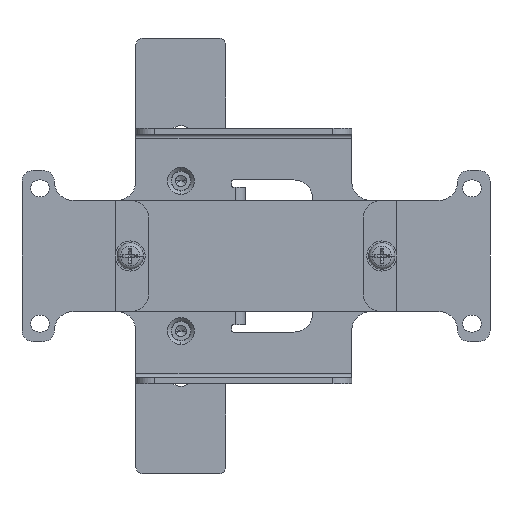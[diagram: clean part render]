
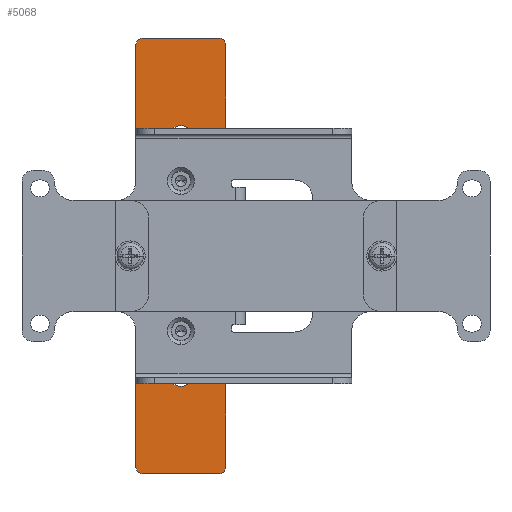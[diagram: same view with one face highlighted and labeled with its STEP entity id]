
A CAD part, front view. The second image highlights one B-rep face of the part: STEP entity #5068.
In plain terms, the highlighted planar face has unit normal (0, -1, 0).
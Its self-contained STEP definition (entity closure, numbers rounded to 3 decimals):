
#4457=DIRECTION('',(0.,0.,-1.));
#4458=VECTOR('',#4457,22.);
#4459=CARTESIAN_POINT('',(-3.7,0.,-9.));
#4460=LINE('',#4459,#4458);
#4461=CARTESIAN_POINT('',(0.,0.,-31.));
#4462=DIRECTION('',(0.,-1.,0.));
#4463=DIRECTION('',(-1.,0.,0.));
#4464=AXIS2_PLACEMENT_3D('',#4461,#4462,#4463);
#4466=DIRECTION('',(0.,0.,1.));
#4467=VECTOR('',#4466,22.);
#4468=CARTESIAN_POINT('',(3.7,0.,-31.));
#4469=LINE('',#4468,#4467);
#4470=CARTESIAN_POINT('',(0.,0.,-9.));
#4471=DIRECTION('',(0.,-1.,0.));
#4472=DIRECTION('',(1.,0.,0.));
#4473=AXIS2_PLACEMENT_3D('',#4470,#4471,#4472);
#4475=DIRECTION('',(0.,0.,-1.));
#4476=VECTOR('',#4475,22.);
#4477=CARTESIAN_POINT('',(-3.7,0.,31.));
#4478=LINE('',#4477,#4476);
#4479=CARTESIAN_POINT('',(0.,0.,9.));
#4480=DIRECTION('',(0.,-1.,0.));
#4481=DIRECTION('',(-1.,0.,0.));
#4482=AXIS2_PLACEMENT_3D('',#4479,#4480,#4481);
#4484=DIRECTION('',(0.,0.,1.));
#4485=VECTOR('',#4484,22.);
#4486=CARTESIAN_POINT('',(3.7,0.,9.));
#4487=LINE('',#4486,#4485);
#4488=CARTESIAN_POINT('',(0.,0.,31.));
#4489=DIRECTION('',(0.,-1.,0.));
#4490=DIRECTION('',(1.,0.,0.));
#4491=AXIS2_PLACEMENT_3D('',#4488,#4489,#4490);
#4493=DIRECTION('',(0.,0.,-1.));
#4494=VECTOR('',#4493,37.25);
#4495=CARTESIAN_POINT('',(12.,0.,56.));
#4496=LINE('',#4495,#4494);
#4497=DIRECTION('',(0.,0.,-1.));
#4498=VECTOR('',#4497,36.5);
#4499=CARTESIAN_POINT('',(12.5,0.,18.25));
#4500=LINE('',#4499,#4498);
#4501=DIRECTION('',(0.,0.,-1.));
#4502=VECTOR('',#4501,37.25);
#4503=CARTESIAN_POINT('',(12.,0.,-18.75));
#4504=LINE('',#4503,#4502);
#4505=CARTESIAN_POINT('',(10.,0.,-56.));
#4506=DIRECTION('',(0.,-1.,0.));
#4507=DIRECTION('',(0.,0.,-1.));
#4508=AXIS2_PLACEMENT_3D('',#4505,#4506,#4507);
#4510=DIRECTION('',(-1.,0.,0.));
#4511=VECTOR('',#4510,20.);
#4512=CARTESIAN_POINT('',(10.,0.,-58.));
#4513=LINE('',#4512,#4511);
#4514=CARTESIAN_POINT('',(-10.,0.,-56.));
#4515=DIRECTION('',(0.,-1.,0.));
#4516=DIRECTION('',(-1.,0.,0.));
#4517=AXIS2_PLACEMENT_3D('',#4514,#4515,#4516);
#4519=DIRECTION('',(0.,0.,1.));
#4520=VECTOR('',#4519,112.);
#4521=CARTESIAN_POINT('',(-12.,0.,-56.));
#4522=LINE('',#4521,#4520);
#4523=CARTESIAN_POINT('',(-10.,0.,56.));
#4524=DIRECTION('',(0.,-1.,0.));
#4525=DIRECTION('',(0.,0.,1.));
#4526=AXIS2_PLACEMENT_3D('',#4523,#4524,#4525);
#4528=DIRECTION('',(1.,0.,0.));
#4529=VECTOR('',#4528,20.);
#4530=CARTESIAN_POINT('',(-10.,0.,58.));
#4531=LINE('',#4530,#4529);
#4532=CARTESIAN_POINT('',(10.,0.,56.));
#4533=DIRECTION('',(0.,-1.,0.));
#4534=DIRECTION('',(1.,0.,0.));
#4535=AXIS2_PLACEMENT_3D('',#4532,#4533,#4534);
#4680=CARTESIAN_POINT('',(12.5,0.,-18.75));
#4681=DIRECTION('',(0.,1.,0.));
#4682=DIRECTION('',(-1.,0.,0.));
#4683=AXIS2_PLACEMENT_3D('',#4680,#4681,#4682);
#4735=CARTESIAN_POINT('',(12.5,0.,18.75));
#4736=DIRECTION('',(0.,1.,0.));
#4737=DIRECTION('',(0.,0.,-1.));
#4738=AXIS2_PLACEMENT_3D('',#4735,#4736,#4737);
#4889=CARTESIAN_POINT('',(12.,0.,56.));
#4890=CARTESIAN_POINT('',(10.,0.,58.));
#4891=VERTEX_POINT('',#4889);
#4892=VERTEX_POINT('',#4890);
#4897=CARTESIAN_POINT('',(10.,0.,-58.));
#4898=CARTESIAN_POINT('',(12.,0.,-56.));
#4899=VERTEX_POINT('',#4897);
#4900=VERTEX_POINT('',#4898);
#4905=CARTESIAN_POINT('',(-12.,0.,-56.));
#4906=CARTESIAN_POINT('',(-10.,0.,-58.));
#4907=VERTEX_POINT('',#4905);
#4908=VERTEX_POINT('',#4906);
#4913=CARTESIAN_POINT('',(-10.,0.,58.));
#4914=CARTESIAN_POINT('',(-12.,0.,56.));
#4915=VERTEX_POINT('',#4913);
#4916=VERTEX_POINT('',#4914);
#4949=CARTESIAN_POINT('',(12.,0.,-18.75));
#4950=CARTESIAN_POINT('',(12.5,0.,-18.25));
#4951=VERTEX_POINT('',#4949);
#4952=VERTEX_POINT('',#4950);
#4961=CARTESIAN_POINT('',(12.5,0.,18.25));
#4962=CARTESIAN_POINT('',(12.,0.,18.75));
#4963=VERTEX_POINT('',#4961);
#4964=VERTEX_POINT('',#4962);
#4985=CARTESIAN_POINT('',(-3.7,0.,-9.));
#4986=CARTESIAN_POINT('',(-3.7,0.,-31.));
#4987=VERTEX_POINT('',#4985);
#4988=VERTEX_POINT('',#4986);
#4989=CARTESIAN_POINT('',(3.7,0.,-31.));
#4990=VERTEX_POINT('',#4989);
#4991=CARTESIAN_POINT('',(3.7,0.,-9.));
#4992=VERTEX_POINT('',#4991);
#4993=CARTESIAN_POINT('',(-3.7,0.,31.));
#4994=CARTESIAN_POINT('',(-3.7,0.,9.));
#4995=VERTEX_POINT('',#4993);
#4996=VERTEX_POINT('',#4994);
#4997=CARTESIAN_POINT('',(3.7,0.,9.));
#4998=VERTEX_POINT('',#4997);
#4999=CARTESIAN_POINT('',(3.7,0.,31.));
#5000=VERTEX_POINT('',#4999);
#5017=CARTESIAN_POINT('',(0.,0.,0.));
#5018=DIRECTION('',(0.,1.,0.));
#5019=DIRECTION('',(0.,0.,-1.));
#5020=AXIS2_PLACEMENT_3D('',#5017,#5018,#5019);
#5021=PLANE('',#5020);
#5023=ORIENTED_EDGE('',*,*,#5022,.T.);
#5025=ORIENTED_EDGE('',*,*,#5024,.F.);
#5027=ORIENTED_EDGE('',*,*,#5026,.T.);
#5029=ORIENTED_EDGE('',*,*,#5028,.F.);
#5031=ORIENTED_EDGE('',*,*,#5030,.T.);
#5033=ORIENTED_EDGE('',*,*,#5032,.F.);
#5035=ORIENTED_EDGE('',*,*,#5034,.T.);
#5037=ORIENTED_EDGE('',*,*,#5036,.F.);
#5039=ORIENTED_EDGE('',*,*,#5038,.T.);
#5041=ORIENTED_EDGE('',*,*,#5040,.F.);
#5043=ORIENTED_EDGE('',*,*,#5042,.T.);
#5045=ORIENTED_EDGE('',*,*,#5044,.F.);
#5046=EDGE_LOOP('',(#5023,#5025,#5027,#5029,#5031,#5033,#5035,#5037,#5039,#5041,
#5043,#5045));
#5047=FACE_OUTER_BOUND('',#5046,.F.);
#5049=ORIENTED_EDGE('',*,*,#5048,.T.);
#5051=ORIENTED_EDGE('',*,*,#5050,.T.);
#5053=ORIENTED_EDGE('',*,*,#5052,.T.);
#5055=ORIENTED_EDGE('',*,*,#5054,.T.);
#5056=EDGE_LOOP('',(#5049,#5051,#5053,#5055));
#5057=FACE_BOUND('',#5056,.F.);
#5059=ORIENTED_EDGE('',*,*,#5058,.T.);
#5061=ORIENTED_EDGE('',*,*,#5060,.T.);
#5063=ORIENTED_EDGE('',*,*,#5062,.T.);
#5065=ORIENTED_EDGE('',*,*,#5064,.T.);
#5066=EDGE_LOOP('',(#5059,#5061,#5063,#5065));
#5067=FACE_BOUND('',#5066,.F.);
#5068=ADVANCED_FACE('',(#5047,#5057,#5067),#5021,.F.);
#4465=CIRCLE('',#4464,3.7);
#4474=CIRCLE('',#4473,3.7);
#4483=CIRCLE('',#4482,3.7);
#4492=CIRCLE('',#4491,3.7);
#4509=CIRCLE('',#4508,2.);
#4518=CIRCLE('',#4517,2.);
#4527=CIRCLE('',#4526,2.);
#4536=CIRCLE('',#4535,2.);
#4684=CIRCLE('',#4683,0.5);
#4739=CIRCLE('',#4738,0.5);
#5022=EDGE_CURVE('',#4891,#4964,#4496,.T.);
#5024=EDGE_CURVE('',#4963,#4964,#4739,.T.);
#5026=EDGE_CURVE('',#4963,#4952,#4500,.T.);
#5028=EDGE_CURVE('',#4951,#4952,#4684,.T.);
#5030=EDGE_CURVE('',#4951,#4900,#4504,.T.);
#5032=EDGE_CURVE('',#4899,#4900,#4509,.T.);
#5034=EDGE_CURVE('',#4899,#4908,#4513,.T.);
#5036=EDGE_CURVE('',#4907,#4908,#4518,.T.);
#5038=EDGE_CURVE('',#4907,#4916,#4522,.T.);
#5040=EDGE_CURVE('',#4915,#4916,#4527,.T.);
#5042=EDGE_CURVE('',#4915,#4892,#4531,.T.);
#5044=EDGE_CURVE('',#4891,#4892,#4536,.T.);
#5048=EDGE_CURVE('',#4987,#4988,#4460,.T.);
#5050=EDGE_CURVE('',#4988,#4990,#4465,.T.);
#5052=EDGE_CURVE('',#4990,#4992,#4469,.T.);
#5054=EDGE_CURVE('',#4992,#4987,#4474,.T.);
#5058=EDGE_CURVE('',#4995,#4996,#4478,.T.);
#5060=EDGE_CURVE('',#4996,#4998,#4483,.T.);
#5062=EDGE_CURVE('',#4998,#5000,#4487,.T.);
#5064=EDGE_CURVE('',#5000,#4995,#4492,.T.);
